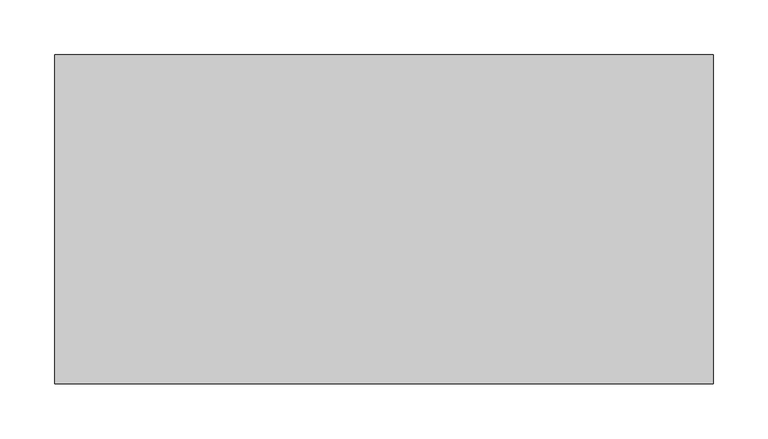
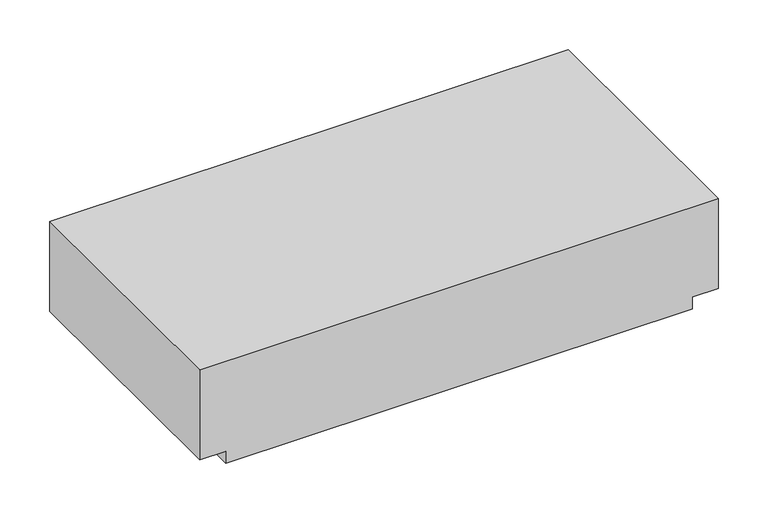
"""IFC4 building model written with IfcOpenShell, lengths in millimetres: proxy geometry, Módulo Laje de Concreto Celular com Friso - Celucon : MLCC friso 12,5x30x60cm (A x B x C)."""

from ifc_helpers import new_model, si_unit, frame, origin, place, context, project, spatial, polyline, outline, extrude, source, transform, mapped, element, save


def generic_models_67b5db59(model_context):
    return source(origin(), model_context, "Body", "SweptSolid", [
        extrude(outline(polyline([(125.0, 300.0), (125.0, -300.0), (15.0, -300.0), (15.0, -270.0), (0.0, -270.0), (0.0, 270.0), (15.0, 270.0), (15.0, 300.0), (125.0, 300.0)])), frame((0.0, -150.0, 0.0), z_axis=(0.0, 1.0, 0.0), x_axis=(0.0, 0.0, 1.0)), (0.0, 0.0, 1.0), 300.0),
    ])


if __name__ == "__main__":
    model = new_model("IFC4")
    model_context = context("Model", 3, world=origin())
    ifc_project = project(units=[si_unit("LENGTHUNIT", "METRE", prefix="MILLI")], contexts=[model_context])
    site = spatial("IfcSite", under=ifc_project)
    building = spatial("IfcBuilding", under=site)
    placement = place(None, origin())
    generic_models_shape = generic_models_67b5db59(model_context)
    element("IfcBuildingElementProxy", 1, Name="Módulo Laje de Concreto Celular com Friso - Celucon : MLCC friso 12,5x30x60cm (A x B x C)", ObjectType="Módulo Laje de Concreto Celular com Friso - Celucon : MLCC friso 12,5x30x60cm (A x B x C)", at=placement, inside=building, context=model_context, shape_type="MappedRepresentation", body=[
        mapped(generic_models_shape, transform((0.0, 0.0, 0.0), x_axis=(1.0, 0.0, 0.0), y_axis=(0.0, 1.0, 0.0), z_axis=(0.0, 0.0, 1.0))),
    ])
    save(model, "model.ifc")
